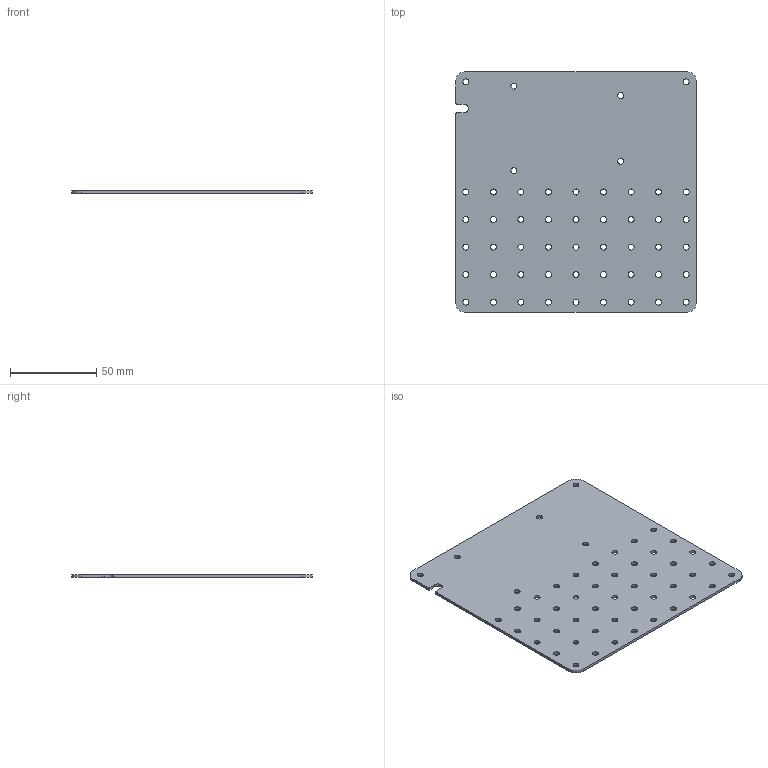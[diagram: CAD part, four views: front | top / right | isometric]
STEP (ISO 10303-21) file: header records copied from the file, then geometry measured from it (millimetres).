
FILE_DESCRIPTION(('Open CASCADE Model'),'2;1');
FILE_NAME('Open CASCADE Shape Model','2024-06-27T16:30:14',('Author'),( 'Open CASCADE'),'Open CASCADE STEP processor 7.5','Open CASCADE 7.5' ,'Unknown');
FILE_SCHEMA(('AUTOMOTIVE_DESIGN { 1 0 10303 214 1 1 1 1 }'));
Length unit declared in the file: millimetre
Products named in the file (3): PCB; Board; Open CASCADE STEP translator 7.5 17.1.1
Assembly tree (2 placements, depth 3):
  PCB
    Board
      Open CASCADE STEP translator 7.5 17.1.1
Bounding box: 140 x 140 x 1.61 mm (x, y, z)
Volume: 30583.4 mm3; surface area: 39889.1 mm2
Topology: 1 solids, 1 shells, 67 faces, 195 edges, 130 vertices
Faces by surface type: cylinder 58, plane 9
Full cylindrical faces by diameter (mm): 3.5 x51
Entity records: 2546 total; most frequent: DIRECTION 451, CARTESIAN_POINT 395, ORIENTED_EDGE 390, EDGE_CURVE 195, AXIS2_PLACEMENT_3D 186, FACE_BOUND 169, EDGE_LOOP 169, VERTEX_POINT 130
